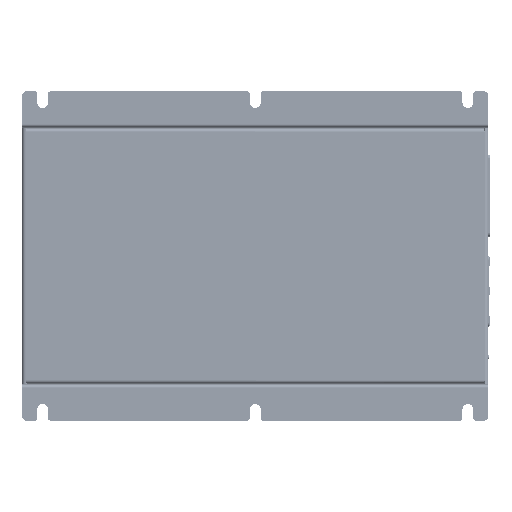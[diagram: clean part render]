
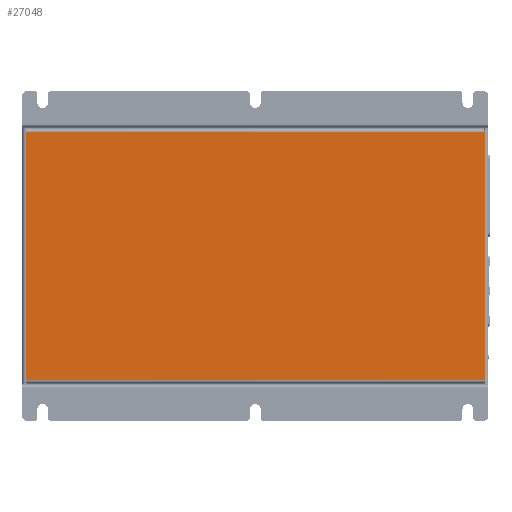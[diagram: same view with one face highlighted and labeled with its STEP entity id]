
A CAD part, front view. The second image highlights one B-rep face of the part: STEP entity #27048.
In plain terms, the highlighted planar face has unit normal (0, -1, 0) as drawn and (0, 1, 0) by its records, which use the part's own axes.
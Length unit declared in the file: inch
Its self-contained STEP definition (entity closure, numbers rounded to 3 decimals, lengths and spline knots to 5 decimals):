
#7233 = VECTOR ( 'NONE', #84553, 39.37008 ) ;
#9397 = EDGE_CURVE ( 'NONE', #119959, #87820, #26913, .T. ) ;
#10586 = DIRECTION ( 'NONE',  ( 0., 0., 1. ) ) ;
#17603 = EDGE_CURVE ( 'NONE', #87820, #112271, #101369, .T. ) ;
#17987 = DIRECTION ( 'NONE',  ( -1., 0., 0. ) ) ;
#19011 = FACE_OUTER_BOUND ( 'NONE', #99130, .T. ) ;
#26913 = LINE ( 'NONE', #131663, #59791 ) ;
#27048 = ADVANCED_FACE ( 'NONE', ( #19011 ), #95043, .T. ) ;
#29487 = CARTESIAN_POINT ( 'NONE',  ( 4.67594, 0., 2.6 ) ) ;
#32142 = VECTOR ( 'NONE', #17987, 39.37008 ) ;
#41903 = CARTESIAN_POINT ( 'NONE',  ( -4.67595, 0., 2.6 ) ) ;
#47052 = VECTOR ( 'NONE', #60196, 39.37008 ) ;
#58584 = ORIENTED_EDGE ( 'NONE', *, *, #131895, .T. ) ;
#59791 = VECTOR ( 'NONE', #111890, 39.37008 ) ;
#60004 = LINE ( 'NONE', #113399, #32142 ) ;
#60196 = DIRECTION ( 'NONE',  ( 0., 0., -1. ) ) ;
#67008 = CARTESIAN_POINT ( 'NONE',  ( 4.67594, 0., 2.52594 ) ) ;
#67757 = LINE ( 'NONE', #41903, #7233 ) ;
#73409 = DIRECTION ( 'NONE',  ( 0., 1., 0. ) ) ;
#84553 = DIRECTION ( 'NONE',  ( 0., 0., -1. ) ) ;
#87820 = VERTEX_POINT ( 'NONE', #67008 ) ;
#92005 = VERTEX_POINT ( 'NONE', #126042 ) ;
#92211 = AXIS2_PLACEMENT_3D ( 'NONE', #94135, #73409, #10586 ) ;
#94135 = CARTESIAN_POINT ( 'NONE',  ( -4.75, 0., 2.6 ) ) ;
#95043 = PLANE ( 'NONE',  #92211 ) ;
#99130 = EDGE_LOOP ( 'NONE', ( #128161, #58584, #125753, #124382 ) ) ;
#101369 = LINE ( 'NONE', #29487, #47052 ) ;
#111890 = DIRECTION ( 'NONE',  ( 1., 0., 0. ) ) ;
#112271 = VERTEX_POINT ( 'NONE', #114516 ) ;
#113399 = CARTESIAN_POINT ( 'NONE',  ( 4.67594, 0., -2.52594 ) ) ;
#114516 = CARTESIAN_POINT ( 'NONE',  ( 4.67594, 0., -2.52594 ) ) ;
#116070 = EDGE_CURVE ( 'NONE', #119959, #92005, #67757, .T. ) ;
#119959 = VERTEX_POINT ( 'NONE', #126870 ) ;
#124382 = ORIENTED_EDGE ( 'NONE', *, *, #9397, .T. ) ;
#125753 = ORIENTED_EDGE ( 'NONE', *, *, #116070, .F. ) ;
#126042 = CARTESIAN_POINT ( 'NONE',  ( -4.67594, 0., -2.52594 ) ) ;
#126870 = CARTESIAN_POINT ( 'NONE',  ( -4.67594, 0., 2.52594 ) ) ;
#128161 = ORIENTED_EDGE ( 'NONE', *, *, #17603, .T. ) ;
#131663 = CARTESIAN_POINT ( 'NONE',  ( -4.67594, 0., 2.52594 ) ) ;
#131895 = EDGE_CURVE ( 'NONE', #112271, #92005, #60004, .T. ) ;
